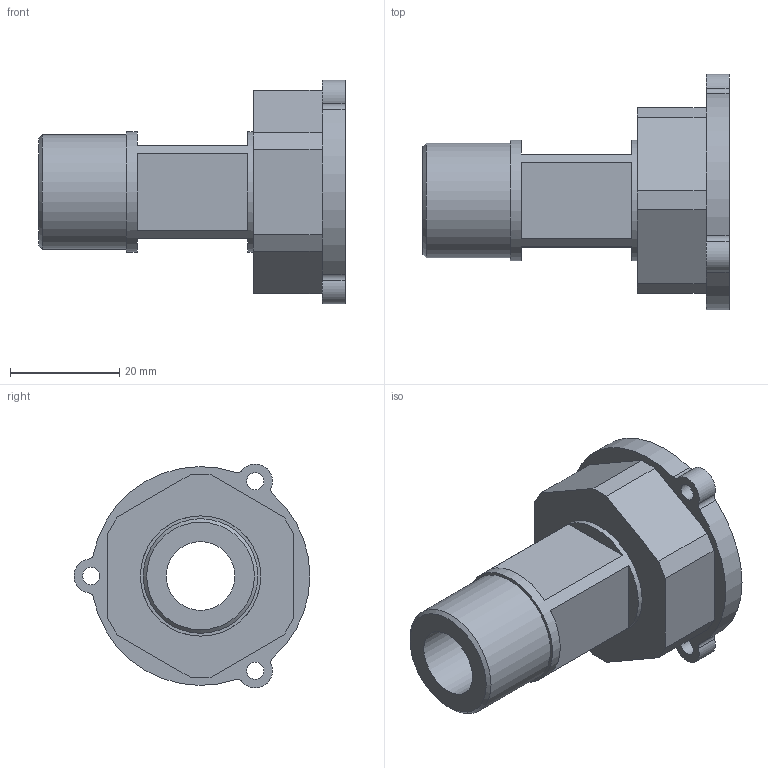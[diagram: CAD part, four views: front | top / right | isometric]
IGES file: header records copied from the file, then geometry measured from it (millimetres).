
Global section: file name: 0358906005.ipt; native system: Autodesk Inventor 2015; preprocessor: unknown; author: KIM; date: 20170618.093055; units: millimetre
Bounding box: 56 x 43.13 x 40.92 mm (x, y, z)
Volume: 19082.9 mm3; surface area: 9852.3 mm2
Topology: 1 solids, 1 shells, 50 faces, 126 edges, 85 vertices
Faces by surface type: plane 30, revolution 11, cylinder 8, cone 1
Full cylindrical faces by diameter (mm): 20.955 x1, 22.003 x1
